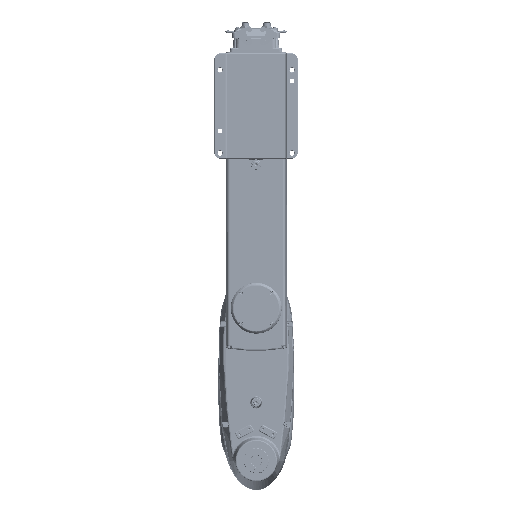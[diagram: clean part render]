
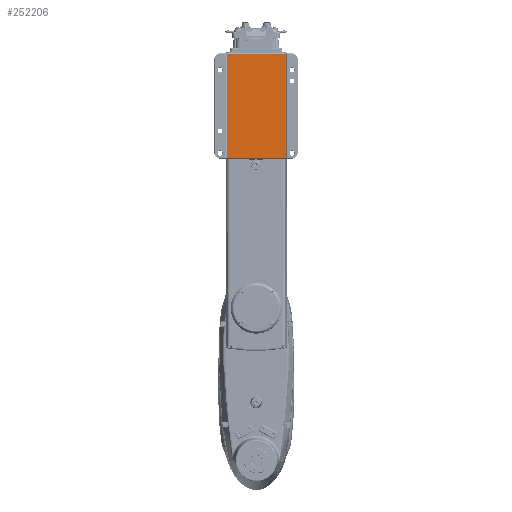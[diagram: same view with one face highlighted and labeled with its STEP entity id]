
A CAD part, front view. The second image highlights one B-rep face of the part: STEP entity #252206.
In plain terms, the highlighted planar face has unit normal (0, -1, 0).
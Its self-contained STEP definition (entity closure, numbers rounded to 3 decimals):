
#5409 = CARTESIAN_POINT ( 'NONE',  ( -52., -12., 40. ) ) ;
#13462 = DIRECTION ( 'NONE',  ( 0., 0., -1. ) ) ;
#21204 = LINE ( 'NONE', #122271, #145416 ) ;
#25822 = CARTESIAN_POINT ( 'NONE',  ( 52., -12., 134.5 ) ) ;
#27201 = LINE ( 'NONE', #5409, #78179 ) ;
#28901 = EDGE_CURVE ( 'NONE', #246629, #127223, #246437, .T. ) ;
#35078 = CARTESIAN_POINT ( 'NONE',  ( 0., -12., 134.5 ) ) ;
#37254 = PLANE ( 'NONE',  #187647 ) ;
#62815 = EDGE_LOOP ( 'NONE', ( #76079, #252648, #176328, #244613 ) ) ;
#76079 = ORIENTED_EDGE ( 'NONE', *, *, #204274, .T. ) ;
#78179 = VECTOR ( 'NONE', #130960, 1000. ) ;
#88391 = VECTOR ( 'NONE', #243733, 1000. ) ;
#122271 = CARTESIAN_POINT ( 'NONE',  ( 0., -12., -54.5 ) ) ;
#126563 = VECTOR ( 'NONE', #13462, 1000. ) ;
#127223 = VERTEX_POINT ( 'NONE', #169437 ) ;
#130004 = DIRECTION ( 'NONE',  ( 0., 1., 0. ) ) ;
#130960 = DIRECTION ( 'NONE',  ( 0., 0., 1. ) ) ;
#137693 = LINE ( 'NONE', #204461, #126563 ) ;
#141522 = VERTEX_POINT ( 'NONE', #240013 ) ;
#145416 = VECTOR ( 'NONE', #225861, 1000. ) ;
#148981 = VERTEX_POINT ( 'NONE', #215633 ) ;
#159067 = EDGE_CURVE ( 'NONE', #141522, #127223, #27201, .T. ) ;
#169437 = CARTESIAN_POINT ( 'NONE',  ( -52., -12., 134.5 ) ) ;
#176328 = ORIENTED_EDGE ( 'NONE', *, *, #28901, .T. ) ;
#187647 = AXIS2_PLACEMENT_3D ( 'NONE', #191416, #130004, #253985 ) ;
#191416 = CARTESIAN_POINT ( 'NONE',  ( -52., -12., -54.5 ) ) ;
#200000 = EDGE_CURVE ( 'NONE', #246629, #148981, #137693, .T. ) ;
#203746 = FACE_OUTER_BOUND ( 'NONE', #62815, .T. ) ;
#204274 = EDGE_CURVE ( 'NONE', #141522, #148981, #21204, .T. ) ;
#204461 = CARTESIAN_POINT ( 'NONE',  ( 52., -12., 40. ) ) ;
#215633 = CARTESIAN_POINT ( 'NONE',  ( 52., -12., -54.5 ) ) ;
#225861 = DIRECTION ( 'NONE',  ( 1., 0., 0. ) ) ;
#240013 = CARTESIAN_POINT ( 'NONE',  ( -52., -12., -54.5 ) ) ;
#243733 = DIRECTION ( 'NONE',  ( -1., 0., 0. ) ) ;
#244613 = ORIENTED_EDGE ( 'NONE', *, *, #159067, .F. ) ;
#246437 = LINE ( 'NONE', #35078, #88391 ) ;
#246629 = VERTEX_POINT ( 'NONE', #25822 ) ;
#252206 = ADVANCED_FACE ( 'NONE', ( #203746 ), #37254, .F. ) ;
#252648 = ORIENTED_EDGE ( 'NONE', *, *, #200000, .F. ) ;
#253985 = DIRECTION ( 'NONE',  ( 0., 0., 1. ) ) ;
